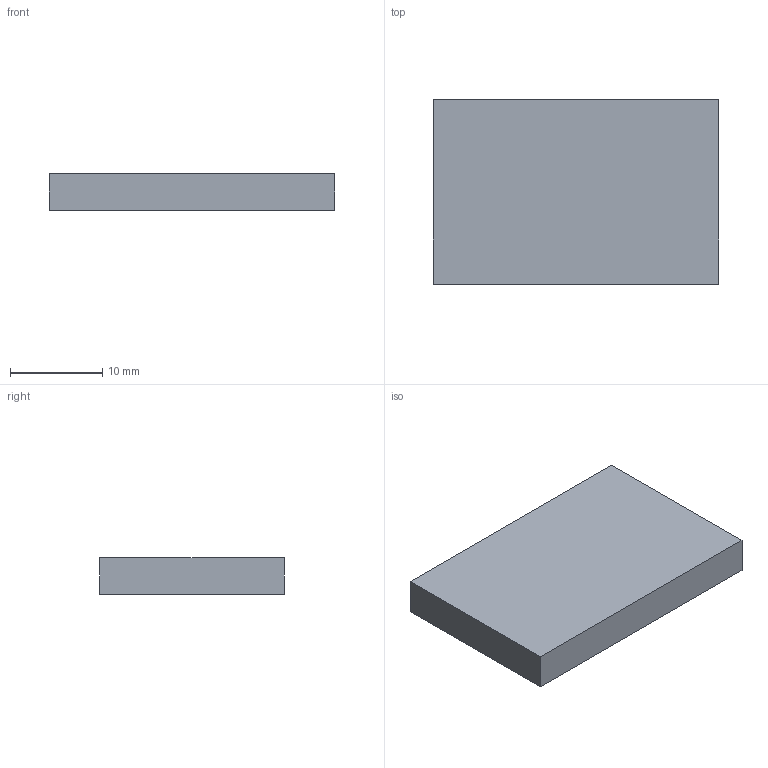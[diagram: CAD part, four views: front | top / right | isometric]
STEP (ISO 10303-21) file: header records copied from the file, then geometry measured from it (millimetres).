
FILE_DESCRIPTION(/* description */ ('STEP AP242 Edition 2','CAx-IF Rec.Pracs.---Representation and Presentation of Product Manufacturing Information (PMI)---4.0---2014-10-13','CAx-IF Rec.Pracs.---3D Tessellated Geometry---0.4---2014-09-14','2;1','CAx-IF Rec.Pracs.---User Defined Attributes---1.5---2016-08-15'),/* implementation_level */ '2;1');
FILE_NAME(/* name */ 'Drone Layout - lipo battery model',/* time_stamp */ '2026-10-04T22:22:49Z',/* author */ (''),/* organization */ (''),/* preprocessor_version */ 'ST-DEVELOPER v20',/* originating_system */ 'ONSHAPE BY PTC INC, 1.221',/* authorisation */ ' ');
FILE_SCHEMA (('AP242_MANAGED_MODEL_BASED_3D_ENGINEERING_MIM_LF { 1 0 10303 442 3 1 4 }'));
Length unit declared in the file: metre
Products named in the file (1): lipo battery model
Bounding box: 31 x 20 x 4 mm (x, y, z)
Volume: 2480 mm3; surface area: 1648 mm2
Topology: 1 solids, 1 shells, 6 faces, 12 edges, 8 vertices
Faces by surface type: plane 6
Entity records: 178 total; most frequent: CARTESIAN_POINT 27, DIRECTION 26, ORIENTED_EDGE 24, EDGE_CURVE 12, LINE 12, VECTOR 12, VERTEX_POINT 8, AXIS2_PLACEMENT_3D 7
